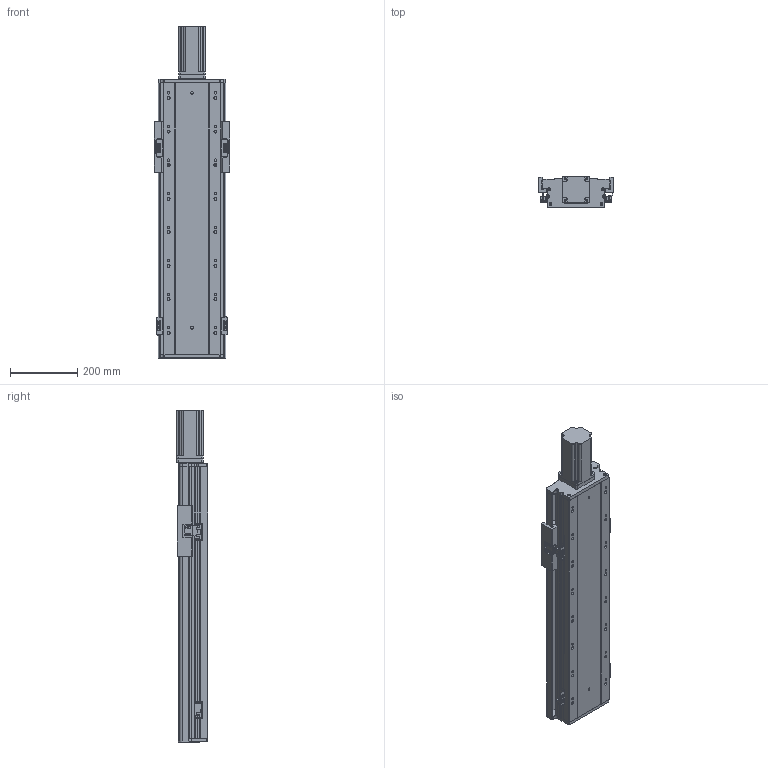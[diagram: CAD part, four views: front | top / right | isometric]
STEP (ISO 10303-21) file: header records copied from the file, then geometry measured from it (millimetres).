
FILE_DESCRIPTION (( 'STEP AP203' ), '1' );
FILE_NAME ('RY170FB-L2510-300-MK.SLDASM_500.step', '2021-02-22T08:56:33', ( '盈信电脑' ), ( '东莞市道滘镇水果街19号' ), 'SwSTEP 2.0', 'SolidWorks 2012', '' );
FILE_SCHEMA (( 'CONFIG_CONTROL_DESIGN' ));
Length unit declared in the file: millimetre
Products named in the file (16): RY140FB-覜茼え; RY170FB-L2510-300-MK.SLDASM_500; RY140-674嫖萇耀輸; RY140FB-674嫖萇覜茼え; RY140直线电机感应器674光电安装座; 覜茼ん674; 750W萇儂梓袧蛌諉啣; 侂狟750W萇儂ㄗ80遺ㄘ; RY170FB-300奻裔_500; 滅袉蝶18-28; 滅袉蝶18-10; RY170FB-铝滑块(25丝杆）; RY170FB-ヶ裔啣; RY170FB-綴裔啣; RY170FB-300倰第菁釱-MK_500
Assembly tree (20 placements, depth 3):
  RY170FB-L2510-300-MK.SLDASM_500
    RY170FB-300倰第菁釱-MK_500
    RY170FB-綴裔啣
    RY170FB-ヶ裔啣
    滅袉蝶18-28
    滅袉蝶18-10
    RY170FB-铝滑块(25丝杆）
    RY170FB-300奻裔_500
    750W萇儂梓袧蛌諉啣
    侂狟750W萇儂ㄗ80遺ㄘ
    RY140-674嫖萇耀輸  x2
      覜茼ん674
      RY140直线电机感应器674光电安装座
    RY140FB-674嫖萇覜茼え
    RY140-674嫖萇耀輸  x2
      覜茼ん674
      RY140直线电机感应器674光电安装座
    RY140FB-覜茼え
Bounding box: 225 x 93.2 x 989.5 mm (x, y, z)
Volume: 5573987.2 mm3; surface area: 1526807.2 mm2
Topology: 21 solids, 21 shells, 1603 faces, 4573 edges, 2948 vertices
Faces by surface type: plane 761, cylinder 742, cone 100
Entity records: 40805 total; most frequent: CARTESIAN_POINT 8702, ORIENTED_EDGE 6398, DIRECTION 6349, EDGE_CURVE 3199, AXIS2_PLACEMENT_3D 2303, VERTEX_POINT 2102, LINE 1743, VECTOR 1743
